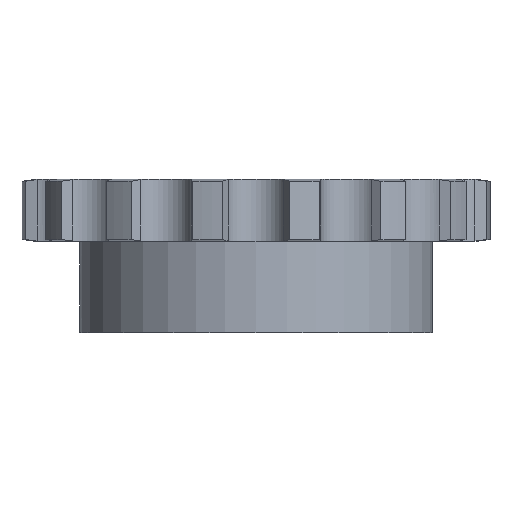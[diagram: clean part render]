
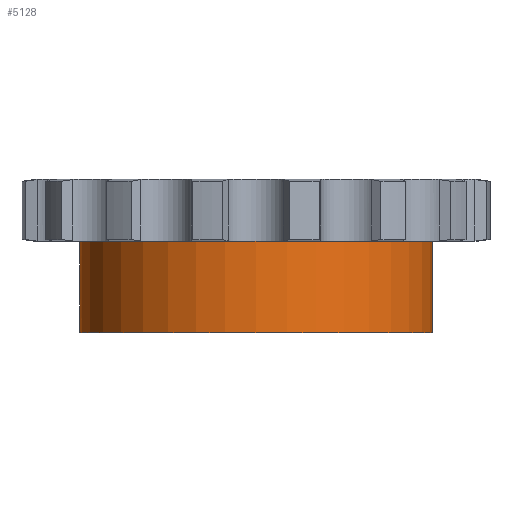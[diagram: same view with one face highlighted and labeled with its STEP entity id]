
A CAD part, front view. The second image highlights one B-rep face of the part: STEP entity #5128.
In plain terms, the highlighted cylindrical face has radius 46 mm (diameter 92 mm), a partial arc.
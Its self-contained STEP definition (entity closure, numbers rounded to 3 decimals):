
#991=CARTESIAN_POINT('',(0.,0.,-8.1));
#992=DIRECTION('',(0.,0.,1.));
#993=DIRECTION('',(-1.,0.,0.));
#994=AXIS2_PLACEMENT_3D('',#991,#992,#993);
#2417=CARTESIAN_POINT('',(-46.,0.,
-18.));
#2439=DIRECTION('',(0.,0.,1.));
#2440=VECTOR('',#2439,23.8);
#2441=CARTESIAN_POINT('',(46.,0.,-31.9));
#2442=LINE('',#2441,#2440);
#2558=CARTESIAN_POINT('',(-46.,0.,
-18.));
#2559=CARTESIAN_POINT('',(-46.,-0.105,
-18.));
#2560=CARTESIAN_POINT('',(-45.999,-0.312,
-18.016));
#2561=CARTESIAN_POINT('',(-45.996,-0.625,
-18.09));
#2562=CARTESIAN_POINT('',(-45.991,-0.922,
-18.212));
#2563=CARTESIAN_POINT('',(-45.985,-1.194,
-18.379));
#2564=CARTESIAN_POINT('',(-45.978,-1.435,
-18.584));
#2565=CARTESIAN_POINT('',(-45.971,-1.64,
-18.824));
#2566=CARTESIAN_POINT('',(-45.965,-1.807,
-19.096));
#2567=CARTESIAN_POINT('',(-45.96,-1.928,
-19.39));
#2568=CARTESIAN_POINT('',(-45.957,-2.,
-19.696));
#2569=CARTESIAN_POINT('',(-45.956,-2.015,
-19.899));
#2570=CARTESIAN_POINT('',(-45.956,-2.015,
-20.));
#2575=DIRECTION('',(0.,0.,1.));
#2576=VECTOR('',#2575,9.9);
#2577=CARTESIAN_POINT('',(-46.,0.,
-18.));
#2578=LINE('',#2577,#2576);
#2582=DIRECTION('',(0.,0.,1.));
#2583=VECTOR('',#2582,9.9);
#2584=CARTESIAN_POINT('',(-46.,0.,-31.9));
#2585=LINE('',#2584,#2583);
#2589=CARTESIAN_POINT('',(-45.956,-2.015,
-20.));
#2590=CARTESIAN_POINT('',(-45.956,-2.015,
-20.101));
#2591=CARTESIAN_POINT('',(-45.957,-2.,
-20.303));
#2592=CARTESIAN_POINT('',(-45.96,-1.929,
-20.609));
#2593=CARTESIAN_POINT('',(-45.965,-1.808,
-20.903));
#2594=CARTESIAN_POINT('',(-45.971,-1.641,
-21.175));
#2595=CARTESIAN_POINT('',(-45.978,-1.435,
-21.416));
#2596=CARTESIAN_POINT('',(-45.985,-1.195,
-21.621));
#2597=CARTESIAN_POINT('',(-45.991,-0.923,
-21.787));
#2598=CARTESIAN_POINT('',(-45.996,-0.626,
-21.91));
#2599=CARTESIAN_POINT('',(-45.999,-0.313,
-21.984));
#2600=CARTESIAN_POINT('',(-46.,-0.105,
-22.));
#2601=CARTESIAN_POINT('',(-46.,0.,
-22.));
#2614=CARTESIAN_POINT('',(0.,0.,-31.9));
#2615=DIRECTION('',(0.,0.,-1.));
#2616=DIRECTION('',(1.,0.,0.));
#2617=AXIS2_PLACEMENT_3D('',#2614,#2615,#2616);
#2957=CARTESIAN_POINT('',(-46.,0.,-31.9));
#2958=CARTESIAN_POINT('',(46.,0.,-31.9));
#2959=VERTEX_POINT('',#2957);
#2960=VERTEX_POINT('',#2958);
#2961=CARTESIAN_POINT('',(46.,0.,-8.1));
#2962=VERTEX_POINT('',#2961);
#2963=CARTESIAN_POINT('',(-46.,0.,-8.1));
#2964=VERTEX_POINT('',#2963);
#3126=VERTEX_POINT('',#2417);
#3129=VERTEX_POINT('',#2570);
#3131=VERTEX_POINT('',#2601);
#5112=CARTESIAN_POINT('',(0.,0.,8.1));
#5113=DIRECTION('',(0.,0.,1.));
#5114=DIRECTION('',(1.,0.,0.));
#5115=AXIS2_PLACEMENT_3D('',#5112,#5113,#5114);
#5116=CYLINDRICAL_SURFACE('',#5115,46.);
#5117=ORIENTED_EDGE('',*,*,#5102,.F.);
#5118=ORIENTED_EDGE('',*,*,#4733,.T.);
#5119=ORIENTED_EDGE('',*,*,#4069,.T.);
#5120=ORIENTED_EDGE('',*,*,#4730,.F.);
#5122=ORIENTED_EDGE('',*,*,#5121,.T.);
#5123=ORIENTED_EDGE('',*,*,#4726,.T.);
#5125=ORIENTED_EDGE('',*,*,#5124,.F.);
#5126=EDGE_LOOP('',(#5117,#5118,#5119,#5120,#5122,#5123,#5125));
#5127=FACE_OUTER_BOUND('',#5126,.F.);
#5128=ADVANCED_FACE('',(#5127),#5116,.T.);
#995=CIRCLE('',#994,46.);
#2571=B_SPLINE_CURVE_WITH_KNOTS('',3,(#2558,#2559,#2560,#2561,#2562,#2563,#2564,
#2565,#2566,#2567,#2568,#2569,#2570),.UNSPECIFIED.,.F.,.F.,(4,1,1,1,1,1,1,1,1,1,
4),(0.,0.1,0.2,0.3,0.4,0.5,0.6,0.7,0.8,0.9,1.),
.UNSPECIFIED.);
#2602=B_SPLINE_CURVE_WITH_KNOTS('',3,(#2589,#2590,#2591,#2592,#2593,#2594,#2595,
#2596,#2597,#2598,#2599,#2600,#2601),.UNSPECIFIED.,.F.,.F.,(4,1,1,1,1,1,1,1,1,1,
4),(0.,0.1,0.2,0.3,0.4,0.5,0.6,0.7,0.8,0.9,1.),
.UNSPECIFIED.);
#2618=CIRCLE('',#2617,46.);
#4069=EDGE_CURVE('',#2964,#2962,#995,.T.);
#4726=EDGE_CURVE('',#2959,#3131,#2585,.T.);
#4730=EDGE_CURVE('',#2960,#2962,#2442,.T.);
#4733=EDGE_CURVE('',#3126,#2964,#2578,.T.);
#5102=EDGE_CURVE('',#3126,#3129,#2571,.T.);
#5121=EDGE_CURVE('',#2960,#2959,#2618,.T.);
#5124=EDGE_CURVE('',#3129,#3131,#2602,.T.);
